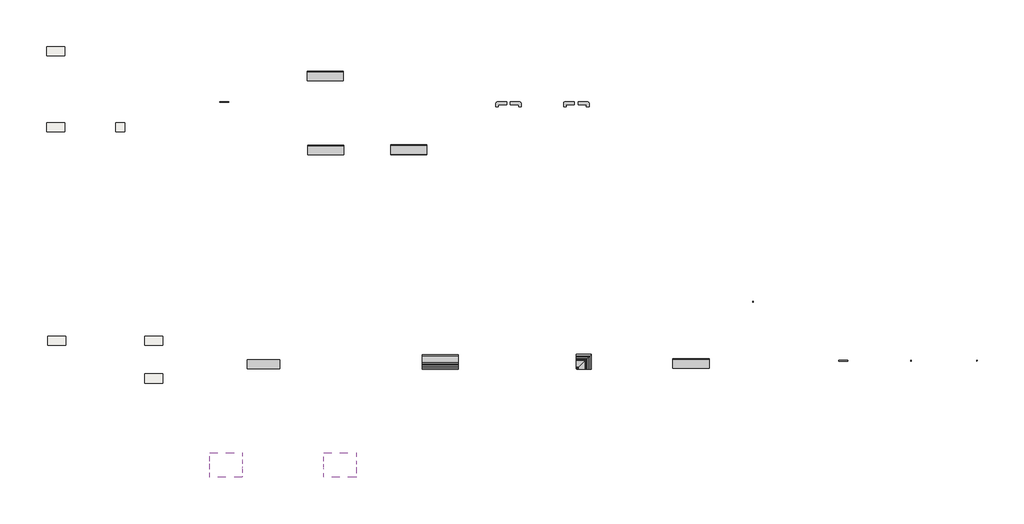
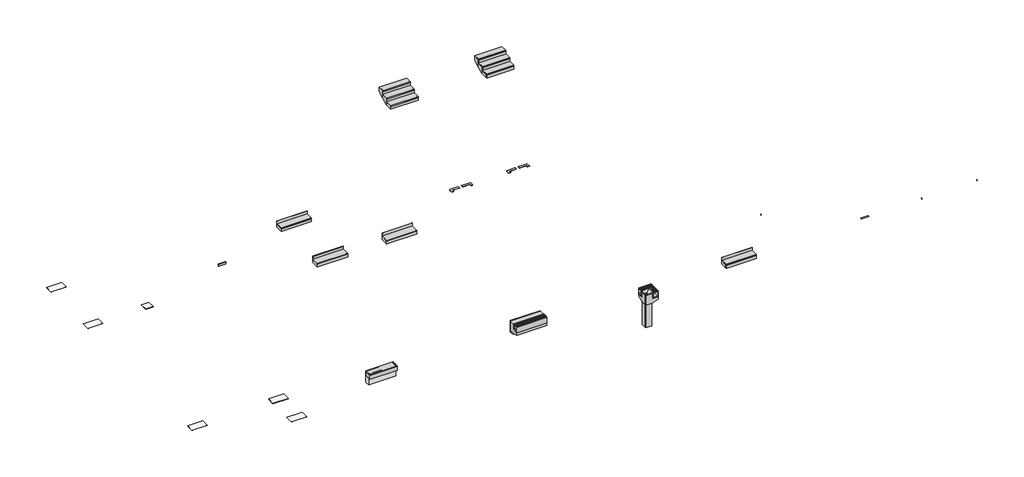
# One storey, incomplete: 15 proxies, 6 slabs, 6 stair flights, 3 walls.
"""IFC4 building model written with IfcOpenShell, lengths in millimetres."""

from ifc_helpers import new_model, si_unit, point, frame, frame_2d, origin, place, context, project, spatial, polyline, circle_curve, trimmed, segment, composite_curve, outline, extrude, faceted_brep, transform, mapped, element, save
from components import generic_models_5bab8272, generic_models_c79c0e69, generic_models_6290b49e, generic_models_9a913470, roca_polar_33x3cm_504bcb03, roca_polar_3x3cm_d871d5da, roca_polar_4x4cm_b0f7cce5, roca_polar_corner_33x33cm_grating_24_5x33cm_6b5bcf94

model = new_model("IFC4")

# Units and contexts
model_context = context("Model", 3, world=origin())
ifc_project = project(units=[si_unit("LENGTHUNIT", "METRE", prefix="MILLI")], contexts=[model_context])

# Site, building, storey
site = spatial("IfcSite", under=ifc_project)
building = spatial("IfcBuilding", under=site)
storey = spatial("IfcBuildingStorey", under=building, Name="EXAGRES_ROCA POLAR Series_Catalogue", Elevation=18000.0)

# Proxies
placement = place(None, origin())
element("IfcBuildingElementProxy", 1, Name="Wall Sweeps", at=placement, inside=storey, context=model_context, shape_type="SweptSolid", body=[
    extrude(outline(polyline([(-10629.7277813, 18046.2592037), (-10829.7277813, 18046.2592037), (-11129.7277813, 18144.7108891), (-11129.7277813, 18250.0), (-10879.7277813, 18250.0), (-10879.7277813, 18500.0), (-10629.7277813, 18500.0), (-10629.7277813, 18046.2592037)])), frame((12587.844275, 0.0, 0.0), z_axis=(1.0, 0.0, 0.0), x_axis=(0.0, 1.0, 0.0)), (0.0, 0.0, 1.0), 1320.0),
])
element("IfcBuildingElementProxy", 2, Name="Wall Sweeps", at=placement, inside=storey, context=model_context, shape_type="SweptSolid", body=[
    extrude(outline(polyline([(-10909.7277813, 18300.0), (-10909.7277813, 18500.0), (-10879.7277813, 18500.0), (-10879.7277813, 18250.0), (-11129.7277813, 18250.0), (-11129.7277813, 18500.0), (-11099.7277813, 18500.0), (-11099.7277813, 18300.0), (-10909.7277813, 18300.0)])), frame((12587.844275, 0.0, 0.0), z_axis=(1.0, 0.0, 0.0), x_axis=(0.0, 1.0, 0.0)), (0.0, 0.0, 1.0), 1320.0),
])
element("IfcBuildingElementProxy", 3, Name="Wall Sweeps", at=placement, inside=storey, context=model_context, shape_type="SweptSolid", body=[
    extrude(outline(composite_curve([segment(trimmed(circle_curve(frame_2d((-11079.7277813, 18500.0)), 15.0), [point((-11079.7277813, 18515.0))], [point((-11094.7277813, 18500.0))], True, "CARTESIAN"), True, "CONTINUOUS"), segment(polyline([(-11094.7277813, 18500.0), (-11124.7277813, 18500.0), (-11124.7277813, 18511.0), (-11102.2277813, 18511.0), (-11102.2277813, 18519.0), (-11120.7277813, 18519.0), (-11120.7277813, 18530.0), (-11081.2277813, 18530.0), (-11081.2277813, 18525.0), (-11073.2277813, 18525.0), (-11073.2277813, 18530.0), (-11033.7277813, 18530.0), (-11034.7277813, 18519.0), (-11039.7277813, 18519.0), (-11039.7277813, 18511.0), (-11019.7277813, 18511.0), (-11019.7277813, 18519.0), (-11024.7277813, 18519.0), (-11025.7277813, 18530.0), (-10986.2277813, 18530.0), (-10986.2277813, 18525.0), (-10978.2277813, 18525.0), (-10978.2277813, 18530.0), (-10938.7277813, 18530.0), (-10939.7277813, 18519.0), (-10944.7277813, 18519.0), (-10944.7277813, 18511.0), (-10924.7277813, 18511.0), (-10924.7277813, 18519.0), (-10929.7277813, 18519.0), (-10930.7277813, 18530.0), (-10891.2277813, 18530.0), (-10884.7277813, 18515.0), (-10884.7277813, 18500.0), (-10896.7277813, 18500.0), (-10896.7277813, 18511.0)]), True, "CONTINUOUS"), segment(trimmed(circle_curve(frame_2d((-10900.4777813, 18511.0)), 3.75), [point((-10896.7277813, 18511.0))], [point((-10904.2277813, 18511.0))], True, "CARTESIAN"), True, "CONTINUOUS"), segment(polyline([(-10904.2277813, 18511.0), (-10904.2277813, 18500.0), (-10964.7277813, 18500.0)]), True, "CONTINUOUS"), segment(trimmed(circle_curve(frame_2d((-10979.7277813, 18500.0)), 15.0), [point((-10964.7277813, 18500.0))], [point((-10979.7277813, 18515.0))], True, "CARTESIAN"), True, "CONTINUOUS"), segment(polyline([(-10979.7277813, 18515.0), (-10984.7277813, 18515.0)]), True, "CONTINUOUS"), segment(trimmed(circle_curve(frame_2d((-10984.7277813, 18500.0)), 15.0), [point((-10984.7277813, 18515.0))], [point((-10999.7277813, 18500.0))], True, "CARTESIAN"), True, "CONTINUOUS"), segment(polyline([(-10999.7277813, 18500.0), (-11059.7277813, 18500.0)]), True, "CONTINUOUS"), segment(trimmed(circle_curve(frame_2d((-11074.7277813, 18500.0)), 15.0), [point((-11059.7277813, 18500.0))], [point((-11074.7277813, 18515.0))], True, "CARTESIAN"), True, "CONTINUOUS"), segment(polyline([(-11074.7277813, 18515.0), (-11079.7277813, 18515.0)]), True, "CONTINUOUS")], self_intersect=False)), frame((12587.844275, 0.0, 0.0), z_axis=(1.0, 0.0, 0.0), x_axis=(0.0, 1.0, 0.0)), (0.0, 0.0, 1.0), 1320.0),
])
element("IfcBuildingElementProxy", 4, Name="Wall Sweeps", at=placement, inside=storey, context=model_context, shape_type="SweptSolid", body=[
    extrude(outline(polyline([(-10787.7277813, 18500.0), (-10787.7277813, 18508.0), (-10786.7277813, 18508.0), (-10786.7277813, 18514.0), (-10787.7277813, 18514.0), (-10787.7277813, 18521.0), (-10794.7277813, 18521.0), (-10794.7277813, 18522.0), (-10798.7277813, 18522.0), (-10798.7277813, 18521.0), (-10804.7277813, 18521.0), (-10804.7277813, 18522.0), (-10808.7277813, 18522.0), (-10808.7277813, 18521.0), (-10814.7277813, 18521.0), (-10814.7277813, 18522.0), (-10818.7277813, 18522.0), (-10818.7277813, 18521.0), (-10824.7277813, 18521.0), (-10824.7277813, 18522.0), (-10828.7277813, 18522.0), (-10828.7277813, 18521.0), (-10834.7277813, 18521.0), (-10834.7277813, 18522.0), (-10838.7277813, 18522.0), (-10838.7277813, 18521.0), (-10844.7277813, 18521.0), (-10844.7277813, 18522.0), (-10848.7277813, 18522.0), (-10848.7277813, 18521.0), (-10854.7277813, 18521.0), (-10854.7277813, 18522.0), (-10858.7277813, 18522.0), (-10858.7277813, 18521.0), (-10864.7277813, 18521.0), (-10864.7277813, 18522.0), (-10868.7277813, 18522.0), (-10868.7277813, 18521.0), (-10874.7277813, 18521.0), (-10874.7277813, 18522.0), (-10878.7277813, 18522.0), (-10878.7277813, 18521.0), (-10884.7277813, 18521.0), (-10884.7277813, 18522.0), (-10888.7277813, 18522.0), (-10888.7277813, 18521.0), (-10894.7277813, 18521.0), (-10894.7277813, 18522.0), (-10898.7277813, 18522.0), (-10898.7277813, 18521.0), (-10904.7277813, 18521.0), (-10904.7277813, 18522.0), (-10908.7277813, 18522.0), (-10908.7277813, 18521.0), (-10914.7277813, 18521.0), (-10914.7277813, 18522.0), (-10918.7277813, 18522.0), (-10918.7277813, 18521.0), (-10924.7277813, 18521.0), (-10924.7277813, 18522.0), (-10928.7277813, 18522.0), (-10928.7277813, 18521.0), (-10934.7277813, 18521.0), (-10934.7277813, 18522.0), (-10938.7277813, 18522.0), (-10938.7277813, 18521.0), (-10944.7277813, 18521.0), (-10944.7277813, 18522.0), (-10948.7277813, 18522.0), (-10948.7277813, 18521.0), (-10954.7277813, 18521.0), (-10954.7277813, 18522.0), (-10958.7277813, 18522.0), (-10958.7277813, 18521.0), (-10964.7277813, 18521.0), (-10964.7277813, 18522.0), (-10968.7277813, 18522.0), (-10968.7277813, 18521.0), (-10974.7277813, 18521.0), (-10974.7277813, 18522.0), (-10978.7277813, 18522.0), (-10978.7277813, 18521.0), (-10984.7277813, 18521.0), (-10984.7277813, 18522.0), (-10988.7277813, 18522.0), (-10988.7277813, 18521.0), (-10994.7277813, 18521.0), (-10994.7277813, 18522.0), (-10998.7277813, 18522.0), (-10998.7277813, 18521.0), (-11004.7277813, 18521.0), (-11004.7277813, 18522.0), (-11008.7277813, 18522.0), (-11008.7277813, 18521.0), (-11014.7277813, 18521.0), (-11014.7277813, 18522.0), (-11018.7277813, 18522.0), (-11018.7277813, 18521.0), (-11024.7277813, 18521.0), (-11024.7277813, 18522.0), (-11028.7277813, 18522.0), (-11028.7277813, 18521.0), (-11034.7277813, 18521.0), (-11034.7277813, 18522.0), (-11038.7277813, 18522.0), (-11038.7277813, 18521.0), (-11044.7277813, 18521.0), (-11044.7277813, 18522.0), (-11048.7277813, 18522.0), (-11048.7277813, 18521.0), (-11054.7277813, 18521.0), (-11054.7277813, 18522.0), (-11058.7277813, 18522.0), (-11058.7277813, 18521.0), (-11064.7277813, 18521.0), (-11064.7277813, 18522.0), (-11068.7277813, 18522.0), (-11068.7277813, 18521.0), (-11074.7277813, 18521.0), (-11074.7277813, 18522.0), (-11078.7277813, 18522.0), (-11078.7277813, 18521.0), (-11084.7277813, 18521.0), (-11084.7277813, 18522.0), (-11088.7277813, 18522.0), (-11088.7277813, 18521.0), (-11094.7277813, 18521.0), (-11094.7277813, 18522.0), (-11098.7277813, 18522.0), (-11098.7277813, 18521.0), (-11104.7277813, 18521.0), (-11104.7277813, 18533.0), (-10774.7277813, 18533.0), (-10774.7277813, 18500.0), (-10787.7277813, 18500.0)])), frame((6130.0707994, 0.0, 0.0), z_axis=(1.0, 0.0, 0.0), x_axis=(0.0, 1.0, 0.0)), (0.0, 0.0, 1.0), 1202.0),
])
element("IfcBuildingElementProxy", 5, Name="Wall Sweeps", at=placement, inside=storey, context=model_context, shape_type="Brep", body=[
    faceted_brep([(6130.0707994, -11094.7277813, 18318.74), (6130.0707994, -11094.7277813, 18518.74), (6130.0707994, -10789.7277813, 18518.74), (6130.0707994, -10789.7277813, 18500.0), (6130.0707994, -10789.7277813, 18318.74), (6130.0707994, -10999.7277813, 18318.74), (7332.0707994, -11094.7277813, 18318.74), (7332.0707994, -10999.7277813, 18318.74), (7332.0707994, -10789.7277813, 18318.74), (7332.0707994, -10789.7277813, 18500.0), (7332.0707994, -10789.7277813, 18518.74), (7332.0707994, -11094.7277813, 18518.74)], [[[0, 1, 2, 3, 4, 5]], [[6, 7, 8, 9, 10, 11]], [[0, 5, 4, 8, 7, 6]], [[4, 3, 2, 10, 9, 8]], [[2, 1, 11, 10]], [[1, 0, 6, 11]]]),
])
element("IfcBuildingElementProxy", 6, Name="Exagres_Roca_Polar_Skirting_9x33", ObjectType="Exagres_Roca_Polar_Skirting_9x33", at=placement, inside=storey, context=model_context, shape_type="SweptSolid", body=[
    extrude(outline(polyline([(-1272.7444733, 18090.0), (-1272.7444733, 18000.0), (-1287.7444733, 18000.0), (-1287.7444733, 18085.0), (-1282.7444733, 18090.0), (-1272.7444733, 18090.0)])), frame((5117.2337887, 0.0, 0.0), z_axis=(1.0, 0.0, 0.0), x_axis=(0.0, 1.0, 0.0)), (0.0, 0.0, 1.0), 330.0),
])
generic_models_shape = generic_models_5bab8272(model_context)
element("IfcBuildingElementProxy", 7, Name="EXAGRES - Step Skirting Straight 42.3x17.5 : Exagres_Roca_Polar_Left", ObjectType="EXAGRES - Step Skirting Straight 42.3x17.5 : Exagres_Roca_Polar_Left", at=placement, inside=storey, context=model_context, shape_type="MappedRepresentation", body=[
    mapped(generic_models_shape, transform((15392.0707994, -1375.5173558, 18000.0), x_axis=(1.0, 0.0, 0.0), y_axis=(0.0, 1.0, 0.0), z_axis=(0.0, 0.0, 1.0))),
])
generic_models_2_shape = generic_models_c79c0e69(model_context)
element("IfcBuildingElementProxy", 8, Name="EXAGRES - Step Skirting ML 39.5x17.5 : Exagres_Roca_Polar_Left", ObjectType="EXAGRES - Step Skirting ML 39.5x17.5 : Exagres_Roca_Polar_Left", at=placement, inside=storey, context=model_context, shape_type="MappedRepresentation", body=[
    mapped(generic_models_2_shape, transform((17892.0707994, -1375.5173558, 18000.0), x_axis=(1.0, 0.0, 0.0), y_axis=(0.0, 1.0, 0.0), z_axis=(0.0, 0.0, 1.0))),
])
generic_models_3_shape = generic_models_6290b49e(model_context)
element("IfcBuildingElementProxy", 9, Name="EXAGRES - Step Skirting Straight 42.3x17.5 : Exagres_Roca_Polar_Right", ObjectType="EXAGRES - Step Skirting Straight 42.3x17.5 : Exagres_Roca_Polar_Right", at=placement, inside=storey, context=model_context, shape_type="MappedRepresentation", body=[
    mapped(generic_models_3_shape, transform((16132.0707994, -1375.5173558, 18000.0), x_axis=(-1.0, 0.0, 0.0), y_axis=(0.0, -1.0, 0.0), z_axis=(0.0, 0.0, 1.0))),
])
generic_models_4_shape = generic_models_9a913470(model_context)
element("IfcBuildingElementProxy", 10, Name="EXAGRES - Step Skirting ML 39.5x17.5 : Exagres_Roca_Polar_Right", ObjectType="EXAGRES - Step Skirting ML 39.5x17.5 : Exagres_Roca_Polar_Right", at=placement, inside=storey, context=model_context, shape_type="MappedRepresentation", body=[
    mapped(generic_models_4_shape, transform((18632.0707994, -1375.5173558, 18000.0), x_axis=(-1.0, 0.0, 0.0), y_axis=(0.0, -1.0, 0.0), z_axis=(0.0, 0.0, 1.0))),
])
roca_polar_33x3cm_shape = roca_polar_33x3cm_504bcb03(model_context)
element("IfcBuildingElementProxy", 11, Name="EXAGRES - Half Round Edge : Roca_Polar_33x3cm", ObjectType="EXAGRES - Half Round Edge : Roca_Polar_33x3cm", at=placement, inside=storey, context=model_context, shape_type="MappedRepresentation", body=[
    mapped(roca_polar_33x3cm_shape, transform((27929.1243906, -10824.0598396, 18030.0), x_axis=(1.0, 0.0, 0.0), y_axis=(0.0, 1.0, 0.0), z_axis=(0.0, 0.0, 1.0))),
])
roca_polar_3x3cm_shape = roca_polar_3x3cm_d871d5da(model_context)
element("IfcBuildingElementProxy", 12, Name="EXAGRES - Round Corner : Roca_Polar_3x3cm", ObjectType="EXAGRES - Round Corner : Roca_Polar_3x3cm", at=placement, inside=storey, context=model_context, shape_type="MappedRepresentation", body=[
    mapped(roca_polar_3x3cm_shape, transform((24787.844275, -8649.7277813, 18000.0), x_axis=(1.0, 0.0, 0.0), y_axis=(0.0, 1.0, 0.0), z_axis=(0.0, 0.0, 1.0))),
])
element("IfcBuildingElementProxy", 13, Name="EXAGRES - Round Corner : Roca_Polar_3x3cm", ObjectType="EXAGRES - Round Corner : Roca_Polar_3x3cm", at=placement, inside=storey, context=model_context, shape_type="MappedRepresentation", body=[
    mapped(roca_polar_3x3cm_shape, transform((33046.4584066, -10821.3496882, 18030.0), x_axis=(1.0, 0.0, 0.0), y_axis=(0.0, 1.0, 0.0), z_axis=(0.0, 0.0, 1.0))),
])
roca_polar_4x4cm_shape = roca_polar_4x4cm_b0f7cce5(model_context)
element("IfcBuildingElementProxy", 14, Name="EXAGRES - Coving Corner : Roca_Polar_4x4cm", ObjectType="EXAGRES - Coving Corner : Roca_Polar_4x4cm", at=placement, inside=storey, context=model_context, shape_type="MappedRepresentation", body=[
    mapped(roca_polar_4x4cm_shape, transform((30587.844275, -10799.7277813, 18000.0), x_axis=(1.0, 0.0, 0.0), y_axis=(0.0, 1.0, 0.0), z_axis=(0.0, 0.0, 1.0))),
])
roca_polar_corner_33x33cm_grating_24_5x33cm_shape = roca_polar_corner_33x33cm_grating_24_5x33cm_6b5bcf94(model_context)
element("IfcBuildingElementProxy", 15, Name="EXAGRES - Overflow Interior Corner : Roca_Polar_Corner_33x33cm _Grating_24.5x33cm", ObjectType="EXAGRES - Overflow Interior Corner : Roca_Polar_Corner_33x33cm _Grating_24.5x33cm", at=placement, inside=storey, context=model_context, shape_type="MappedRepresentation", body=[
    mapped(roca_polar_corner_33x33cm_grating_24_5x33cm_shape, transform((18287.844275, -11099.7277813, 18000.0), x_axis=(1.0, 0.0, 0.0), y_axis=(0.0, 1.0, 0.0), z_axis=(0.0, 0.0, 1.0))),
])

# Slabs
element("IfcSlab", 16, ObjectType="Exagres_Roca_Polar_Base_33x66,5_R9", at=placement, inside=storey, context=model_context, shape_type="SweptSolid", body=[
    extrude(outline(polyline([(-594.4525763, 768.0707543), (-594.4525763, 436.0707543), (-1261.4525763, 436.0707543), (-1261.4525763, 768.0707543), (-594.4525763, 768.0707543)])), frame((0.0, 0.0, 17990.0), z_axis=(0.0, 0.0, 1.0), x_axis=(1.0, 0.0, 0.0)), (0.0, 0.0, 1.0), 10.0),
])
element("IfcSlab", 17, ObjectType="Exagres_Roca_Polar_Base_33x66,5_R12+C", at=placement, inside=storey, context=model_context, shape_type="SweptSolid", body=[
    extrude(outline(polyline([(-592.4525763, -2031.9292457), (-592.4525763, -2365.9292457), (-1261.4525763, -2365.9292457), (-1261.4525763, -2031.9292457), (-592.4525763, -2031.9292457)])), frame((0.0, 0.0, 17990.0), z_axis=(0.0, 0.0, 1.0), x_axis=(1.0, 0.0, 0.0)), (0.0, 0.0, 1.0), 10.0),
])
element("IfcSlab", 18, ObjectType="Exagres_Roca_Polar_Base_33x33_R12+C", at=placement, inside=storey, context=model_context, shape_type="SweptSolid", body=[
    extrude(outline(polyline([(1622.5474237, -2031.9292457), (1622.5474237, -2365.9292457), (1288.5474237, -2365.9292457), (1288.5474237, -2031.9292457), (1622.5474237, -2031.9292457)])), frame((0.0, 0.0, 17990.0), z_axis=(0.0, 0.0, 1.0), x_axis=(1.0, 0.0, 0.0)), (0.0, 0.0, 1.0), 10.0),
])
element("IfcSlab", 19, ObjectType="Exagres_Roca_Polar_Pool_33x66,5_R9", at=placement, inside=storey, context=model_context, shape_type="SweptSolid", body=[
    extrude(outline(polyline([(-545.155725, -9899.7277813), (-545.155725, -10231.7277813), (-1212.155725, -10231.7277813), (-1212.155725, -9899.7277813), (-545.155725, -9899.7277813)])), frame((0.0, 0.0, 17990.0), z_axis=(0.0, 0.0, 1.0), x_axis=(1.0, 0.0, 0.0)), (0.0, 0.0, 1.0), 10.0),
])
element("IfcSlab", 20, ObjectType="Exagres_Roca_Polar_Pool_33x66,5_R12+C", at=placement, inside=storey, context=model_context, shape_type="SweptSolid", body=[
    extrude(outline(polyline([(3028.596948, -11299.7277813), (3028.596948, -11633.7277813), (2359.596948, -11633.7277813), (2359.596948, -11299.7277813), (3028.596948, -11299.7277813)])), frame((0.0, 0.0, 17990.0), z_axis=(0.0, 0.0, 1.0), x_axis=(1.0, 0.0, 0.0)), (0.0, 0.0, 1.0), 10.0),
])
element("IfcSlab", 21, ObjectType="Exagres_Roca_Polar_Pool_33x66,5_R9", at=placement, inside=storey, context=model_context, shape_type="SweptSolid", body=[
    extrude(outline(polyline([(3026.596948, -9899.7277813), (3026.596948, -10231.7277813), (2359.596948, -10231.7277813), (2359.596948, -9899.7277813), (3026.596948, -9899.7277813)])), frame((0.0, 0.0, 17990.0), z_axis=(0.0, 0.0, 1.0), x_axis=(1.0, 0.0, 0.0)), (0.0, 0.0, 1.0), 10.0),
])

# Stair flights
element("IfcStairFlight", 22, ObjectType="EXAGRES_ML - Roca Polar R11+C", at=placement, inside=storey, context=model_context, shape_type="SolidModel", body=[
    faceted_brep([(4748.0970953, -14777.6587674, 33972.3684211), (4748.0970953, -15077.6587674, 33972.3684211), (5948.0970953, -15077.6587674, 33972.3684211), (5948.0970953, -14777.6587674, 33972.3684211), (4748.0970953, -14777.6587674, 33820.0), (4748.0970953, -15077.6587674, 33820.0), (5948.0970953, -15077.6587674, 33820.0), (5948.0970953, -14777.6587674, 33820.0), (4748.0970953, -14477.6587674, 34139.7368421), (4748.0970953, -14777.6587674, 34139.7368421), (5948.0970953, -14777.6587674, 34139.7368421), (5948.0970953, -14477.6587674, 34139.7368421), (4748.0970953, -14477.6587674, 33956.5213642), (4748.0970953, -14722.3668729, 33820.0), (5948.0970953, -14722.3668729, 33820.0), (5948.0970953, -14477.6587674, 33956.5213642), (4748.0970953, -14211.6587674, 34104.9213642), (5948.0970953, -14211.6587674, 34104.9213642), (4748.0970953, -14211.6587674, 34307.1052632), (4748.0970953, -14477.6587674, 34307.1052632), (5948.0970953, -14477.6587674, 34307.1052632), (5948.0970953, -14211.6587674, 34307.1052632)], [[[0, 1, 2, 3]], [[1, 0, 4, 5]], [[2, 1, 5, 6]], [[3, 2, 6, 7]], [[8, 9, 10, 11]], [[4, 0, 9, 8, 12, 13]], [[0, 3, 10, 9]], [[3, 7, 14, 15, 11, 10]], [[5, 4, 13, 14, 7, 6]], [[14, 13, 12, 16, 17, 15]], [[18, 19, 20, 21]], [[19, 18, 16, 12, 8]], [[8, 11, 20, 19]], [[21, 20, 11, 15, 17]], [[18, 21, 17, 16]]]),
    extrude(outline(composite_curve([segment(polyline([(-15091.6587674, 33987.3684211), (-14777.6587674, 33987.3684211), (-14777.6587674, 33972.3684211), (-15063.7492185, 33972.3684211), (-15063.7492185, 33971.8684211), (-15067.6587674, 33971.8684211), (-15067.6587674, 33972.3684211), (-15069.2492185, 33972.3684211), (-15069.2492185, 33972.8684211), (-15071.6587674, 33972.8684211), (-15071.6587674, 33971.8684211), (-15078.6587674, 33971.8684211), (-15078.6587674, 33964.8684211), (-15079.6587674, 33964.8684211), (-15079.6587674, 33958.8684211), (-15078.6587674, 33958.8684211), (-15078.6587674, 33947.3684211), (-15091.6587674, 33947.3684211)]), True, "CONTINUOUS"), segment(trimmed(circle_curve(frame_2d((-15091.6587674, 33967.3684211)), 20.0), [point((-15091.6587674, 33947.3684211))], [point((-15091.6587674, 33987.3684211))], False, "CARTESIAN"), True, "CONTINUOUS")], self_intersect=False)), frame((4748.0970953, 0.0, 0.0), z_axis=(1.0, 0.0, 0.0), x_axis=(0.0, 1.0, 0.0)), (0.0, 0.0, 1.0), 1200.0),
    extrude(outline(polyline([(5948.0970953, -15077.6587674), (5948.0970953, -15087.6587674), (4748.0970953, -15087.6587674), (4748.0970953, -15077.6587674), (5948.0970953, -15077.6587674)])), frame((0.0, 0.0, 33820.0), z_axis=(0.0, 0.0, 1.0), x_axis=(1.0, 0.0, 0.0)), (0.0, 0.0, 1.0), 127.3684211),
    extrude(outline(polyline([(5948.0970953, -14777.6587674), (5948.0970953, -14787.6587674), (4748.0970953, -14787.6587674), (4748.0970953, -14777.6587674), (5948.0970953, -14777.6587674)])), frame((0.0, 0.0, 33987.3684211), z_axis=(0.0, 0.0, 1.0), x_axis=(1.0, 0.0, 0.0)), (0.0, 0.0, 1.0), 127.3684211),
    extrude(outline(composite_curve([segment(polyline([(-14791.6587674, 34154.7368421), (-14477.6587674, 34154.7368421), (-14477.6587674, 34139.7368421), (-14763.7492185, 34139.7368421), (-14763.7492185, 34139.2368421), (-14767.6587674, 34139.2368421), (-14767.6587674, 34139.7368421), (-14769.2492185, 34139.7368421), (-14769.2492185, 34140.2368421), (-14771.6587674, 34140.2368421), (-14771.6587674, 34139.2368421), (-14778.6587674, 34139.2368421), (-14778.6587674, 34132.2368421), (-14779.6587674, 34132.2368421), (-14779.6587674, 34126.2368421), (-14778.6587674, 34126.2368421), (-14778.6587674, 34114.7368421), (-14791.6587674, 34114.7368421)]), True, "CONTINUOUS"), segment(trimmed(circle_curve(frame_2d((-14791.6587674, 34134.7368421)), 20.0), [point((-14791.6587674, 34114.7368421))], [point((-14791.6587674, 34154.7368421))], False, "CARTESIAN"), True, "CONTINUOUS")], self_intersect=False)), frame((4748.0970953, 0.0, 0.0), z_axis=(1.0, 0.0, 0.0), x_axis=(0.0, 1.0, 0.0)), (0.0, 0.0, 1.0), 1200.0),
    extrude(outline(polyline([(5948.0970953, -14477.6587674), (5948.0970953, -14487.6587674), (4748.0970953, -14487.6587674), (4748.0970953, -14477.6587674), (5948.0970953, -14477.6587674)])), frame((0.0, 0.0, 34154.7368421), z_axis=(0.0, 0.0, 1.0), x_axis=(1.0, 0.0, 0.0)), (0.0, 0.0, 1.0), 127.3684211),
    extrude(outline(composite_curve([segment(polyline([(-14491.6587674, 34322.1052632), (-14211.6587674, 34322.1052632), (-14211.6587674, 34307.1052632), (-14463.7492185, 34307.1052632), (-14463.7492185, 34306.6052632), (-14467.6587674, 34306.6052632), (-14467.6587674, 34307.1052632), (-14469.2492185, 34307.1052632), (-14469.2492185, 34307.6052632), (-14471.6587674, 34307.6052632), (-14471.6587674, 34306.6052632), (-14478.6587674, 34306.6052632), (-14478.6587674, 34299.6052632), (-14479.6587674, 34299.6052632), (-14479.6587674, 34293.6052632), (-14478.6587674, 34293.6052632), (-14478.6587674, 34282.1052632), (-14491.6587674, 34282.1052632)]), True, "CONTINUOUS"), segment(trimmed(circle_curve(frame_2d((-14491.6587674, 34302.1052632)), 20.0), [point((-14491.6587674, 34282.1052632))], [point((-14491.6587674, 34322.1052632))], False, "CARTESIAN"), True, "CONTINUOUS")], self_intersect=False)), frame((4748.0970953, 0.0, 0.0), z_axis=(1.0, 0.0, 0.0), x_axis=(0.0, 1.0, 0.0)), (0.0, 0.0, 1.0), 1200.0),
])
element("IfcStairFlight", 23, ObjectType="EXAGRES_Straight_33x33 - Roca Polar R11+C", at=placement, inside=storey, context=model_context, shape_type="SweptSolid", body=[
    extrude(outline(polyline([(8362.6218417, -3205.5667634), (8362.6218417, -2875.5667634), (9692.6218417, -2875.5667634), (9692.6218417, -3205.5667634), (8362.6218417, -3205.5667634)])), frame((0.0, 0.0, 18000.0), z_axis=(0.0, 0.0, 1.0), x_axis=(1.0, 0.0, 0.0)), (0.0, 0.0, 1.0), 151.6666667),
    extrude(outline(polyline([(-2875.5667634, 18151.6666667), (-3200.6572145, 18151.6666667), (-3200.6572145, 18154.6666667), (-3205.5667634, 18154.6666667), (-3205.5667634, 18147.6666667), (-3206.5667634, 18147.6666667), (-3206.5667634, 18141.6666667), (-3205.5667634, 18141.6666667), (-3205.5667634, 18133.6666667), (-3218.5667634, 18133.6666667), (-3218.5667634, 18166.6666667), (-2875.5667634, 18166.6666667), (-2875.5667634, 18151.6666667)])), frame((8362.6218417, 0.0, 0.0), z_axis=(1.0, 0.0, 0.0), x_axis=(0.0, 1.0, 0.0)), (0.0, 0.0, 1.0), 1330.0),
    extrude(outline(polyline([(9692.6218417, -3205.5667634), (9692.6218417, -3218.5667634), (8362.6218417, -3218.5667634), (8362.6218417, -3205.5667634), (9692.6218417, -3205.5667634)])), frame((0.0, 0.0, 18000.0), z_axis=(0.0, 0.0, 1.0), x_axis=(1.0, 0.0, 0.0)), (0.0, 0.0, 1.0), 133.6666667),
    extrude(outline(polyline([(9692.6218417, -2875.5667634), (9692.6218417, -2888.5667634), (8362.6218417, -2888.5667634), (8362.6218417, -2875.5667634), (9692.6218417, -2875.5667634)])), frame((0.0, 0.0, 18166.6666667), z_axis=(0.0, 0.0, 1.0), x_axis=(1.0, 0.0, 0.0)), (0.0, 0.0, 1.0), 133.6666667),
])
element("IfcStairFlight", 24, ObjectType="EXAGRES_Straight_33x33 - Roca Polar R9", at=placement, inside=storey, context=model_context, shape_type="SweptSolid", body=[
    extrude(outline(polyline([(8347.9503057, -478.1306727), (8347.9503057, -148.1306727), (9677.9503057, -148.1306727), (9677.9503057, -478.1306727), (8347.9503057, -478.1306727)])), frame((0.0, 0.0, 18000.0), z_axis=(0.0, 0.0, 1.0), x_axis=(1.0, 0.0, 0.0)), (0.0, 0.0, 1.0), 151.6666667),
    extrude(outline(polyline([(-148.1306727, 18151.6666667), (-473.2211238, 18151.6666667), (-473.2211238, 18154.6666667), (-478.1306727, 18154.6666667), (-478.1306727, 18147.6666667), (-479.1306727, 18147.6666667), (-479.1306727, 18141.6666667), (-478.1306727, 18141.6666667), (-478.1306727, 18133.6666667), (-491.1306727, 18133.6666667), (-491.1306727, 18166.6666667), (-148.1306727, 18166.6666667), (-148.1306727, 18151.6666667)])), frame((8347.9503057, 0.0, 0.0), z_axis=(1.0, 0.0, 0.0), x_axis=(0.0, 1.0, 0.0)), (0.0, 0.0, 1.0), 1330.0),
    extrude(outline(polyline([(9677.9503057, -478.1306727), (9677.9503057, -491.1306727), (8347.9503057, -491.1306727), (8347.9503057, -478.1306727), (9677.9503057, -478.1306727)])), frame((0.0, 0.0, 18000.0), z_axis=(0.0, 0.0, 1.0), x_axis=(1.0, 0.0, 0.0)), (0.0, 0.0, 1.0), 133.6666667),
    extrude(outline(polyline([(9677.9503057, -148.1306727), (9677.9503057, -161.1306727), (8347.9503057, -161.1306727), (8347.9503057, -148.1306727), (9677.9503057, -148.1306727)])), frame((0.0, 0.0, 18166.6666667), z_axis=(0.0, 0.0, 1.0), x_axis=(1.0, 0.0, 0.0)), (0.0, 0.0, 1.0), 133.6666667),
])
element("IfcStairFlight", 25, ObjectType="EXAGRES_ML - Roca Polar R11+C", at=placement, inside=storey, context=model_context, shape_type="SweptSolid", body=[
    extrude(outline(polyline([(11421.7915516, -3184.5667634), (11421.7915516, -2854.5667634), (12751.7915516, -2854.5667634), (12751.7915516, -3184.5667634), (11421.7915516, -3184.5667634)])), frame((0.0, 0.0, 18000.0), z_axis=(0.0, 0.0, 1.0), x_axis=(1.0, 0.0, 0.0)), (0.0, 0.0, 1.0), 151.6666667),
    extrude(outline(composite_curve([segment(polyline([(-3198.5667634, 18166.6666667), (-2854.5667634, 18166.6666667), (-2854.5667634, 18151.6666667), (-3170.6572145, 18151.6666667), (-3170.6572145, 18151.1666667), (-3174.5667634, 18151.1666667), (-3174.5667634, 18151.6666667), (-3176.1572145, 18151.6666667), (-3176.1572145, 18152.1666667), (-3178.5667634, 18152.1666667), (-3178.5667634, 18151.1666667), (-3185.5667634, 18151.1666667), (-3185.5667634, 18144.1666667), (-3186.5667634, 18144.1666667), (-3186.5667634, 18138.1666667), (-3185.5667634, 18138.1666667), (-3185.5667634, 18126.6666667), (-3198.5667634, 18126.6666667)]), True, "CONTINUOUS"), segment(trimmed(circle_curve(frame_2d((-3198.5667634, 18146.6666667)), 20.0), [point((-3198.5667634, 18126.6666667))], [point((-3198.5667634, 18166.6666667))], False, "CARTESIAN"), True, "CONTINUOUS")], self_intersect=False)), frame((11421.7915516, 0.0, 0.0), z_axis=(1.0, 0.0, 0.0), x_axis=(0.0, 1.0, 0.0)), (0.0, 0.0, 1.0), 1330.0),
    extrude(outline(polyline([(12751.7915516, -3184.5667634), (12751.7915516, -3194.5667634), (11421.7915516, -3194.5667634), (11421.7915516, -3184.5667634), (12751.7915516, -3184.5667634)])), frame((0.0, 0.0, 18000.0), z_axis=(0.0, 0.0, 1.0), x_axis=(1.0, 0.0, 0.0)), (0.0, 0.0, 1.0), 126.6666667),
    extrude(outline(polyline([(12751.7915516, -2854.5667634), (12751.7915516, -2864.5667634), (11421.7915516, -2864.5667634), (11421.7915516, -2854.5667634), (12751.7915516, -2854.5667634)])), frame((0.0, 0.0, 18166.6666667), z_axis=(0.0, 0.0, 1.0), x_axis=(1.0, 0.0, 0.0)), (0.0, 0.0, 1.0), 126.6666667),
])
element("IfcStairFlight", 26, ObjectType="EXAGRES_Straight_33x33 - Roca Polar R11+C", at=placement, inside=storey, context=model_context, shape_type="SweptSolid", body=[
    extrude(outline(polyline([(21825.925566, -11073.4612995), (21825.925566, -10743.4612995), (23155.925566, -10743.4612995), (23155.925566, -11073.4612995), (21825.925566, -11073.4612995)])), frame((0.0, 0.0, 18000.0), z_axis=(0.0, 0.0, 1.0), x_axis=(1.0, 0.0, 0.0)), (0.0, 0.0, 1.0), 154.4915254),
    extrude(outline(polyline([(-10743.4612995, 18154.4915254), (-11068.5517506, 18154.4915254), (-11068.5517506, 18157.4915254), (-11073.4612995, 18157.4915254), (-11073.4612995, 18150.4915254), (-11074.4612995, 18150.4915254), (-11074.4612995, 18144.4915254), (-11073.4612995, 18144.4915254), (-11073.4612995, 18136.4915254), (-11086.4612995, 18136.4915254), (-11086.4612995, 18169.4915254), (-10743.4612995, 18169.4915254), (-10743.4612995, 18154.4915254)])), frame((21825.925566, 0.0, 0.0), z_axis=(1.0, 0.0, 0.0), x_axis=(0.0, 1.0, 0.0)), (0.0, 0.0, 1.0), 1330.0),
    extrude(outline(polyline([(23155.925566, -11073.4612995), (23155.925566, -11086.4612995), (21825.925566, -11086.4612995), (21825.925566, -11073.4612995), (23155.925566, -11073.4612995)])), frame((0.0, 0.0, 18000.0), z_axis=(0.0, 0.0, 1.0), x_axis=(1.0, 0.0, 0.0)), (0.0, 0.0, 1.0), 136.4915254),
    extrude(outline(polyline([(23155.925566, -10743.4612995), (23155.925566, -10756.4612995), (21825.925566, -10756.4612995), (21825.925566, -10743.4612995), (23155.925566, -10743.4612995)])), frame((0.0, 0.0, 18169.4915254), z_axis=(0.0, 0.0, 1.0), x_axis=(1.0, 0.0, 0.0)), (0.0, 0.0, 1.0), 136.4915254),
])
element("IfcStairFlight", 27, ObjectType="EXAGRES_Straight_33x33 - Roca Polar R9", at=placement, inside=storey, context=model_context, shape_type="SolidModel", body=[
    faceted_brep([(8948.0970953, -14798.6587674, 33972.3684211), (8948.0970953, -15098.6587674, 33972.3684211), (10148.0970953, -15098.6587674, 33972.3684211), (10148.0970953, -14798.6587674, 33972.3684211), (8948.0970953, -14798.6587674, 33820.0), (8948.0970953, -15098.6587674, 33820.0), (10148.0970953, -15098.6587674, 33820.0), (10148.0970953, -14798.6587674, 33820.0), (8948.0970953, -14498.6587674, 34139.7368421), (8948.0970953, -14798.6587674, 34139.7368421), (10148.0970953, -14798.6587674, 34139.7368421), (10148.0970953, -14498.6587674, 34139.7368421), (8948.0970953, -14498.6587674, 33956.5213642), (8948.0970953, -14743.3668729, 33820.0), (10148.0970953, -14743.3668729, 33820.0), (10148.0970953, -14498.6587674, 33956.5213642), (8948.0970953, -14211.6587674, 34116.6371536), (10148.0970953, -14211.6587674, 34116.6371536), (8948.0970953, -14211.6587674, 34307.1052632), (8948.0970953, -14498.6587674, 34307.1052632), (10148.0970953, -14498.6587674, 34307.1052632), (10148.0970953, -14211.6587674, 34307.1052632)], [[[0, 1, 2, 3]], [[1, 0, 4, 5]], [[2, 1, 5, 6]], [[3, 2, 6, 7]], [[8, 9, 10, 11]], [[4, 0, 9, 8, 12, 13]], [[0, 3, 10, 9]], [[3, 7, 14, 15, 11, 10]], [[5, 4, 13, 14, 7, 6]], [[14, 13, 12, 16, 17, 15]], [[18, 19, 20, 21]], [[19, 18, 16, 12, 8]], [[8, 11, 20, 19]], [[21, 20, 11, 15, 17]], [[18, 21, 17, 16]]]),
    extrude(outline(polyline([(-14798.6587674, 33972.3684211), (-15093.7492185, 33972.3684211), (-15093.7492185, 33975.3684211), (-15098.6587674, 33975.3684211), (-15098.6587674, 33968.3684211), (-15099.6587674, 33968.3684211), (-15099.6587674, 33962.3684211), (-15098.6587674, 33962.3684211), (-15098.6587674, 33954.3684211), (-15111.6587674, 33954.3684211), (-15111.6587674, 33987.3684211), (-14798.6587674, 33987.3684211), (-14798.6587674, 33972.3684211)])), frame((8948.0970953, 0.0, 0.0), z_axis=(1.0, 0.0, 0.0), x_axis=(0.0, 1.0, 0.0)), (0.0, 0.0, 1.0), 1200.0),
    extrude(outline(polyline([(10148.0970953, -15098.6587674), (10148.0970953, -15111.6587674), (8948.0970953, -15111.6587674), (8948.0970953, -15098.6587674), (10148.0970953, -15098.6587674)])), frame((0.0, 0.0, 33820.0), z_axis=(0.0, 0.0, 1.0), x_axis=(1.0, 0.0, 0.0)), (0.0, 0.0, 1.0), 134.3684211),
    extrude(outline(polyline([(10148.0970953, -14798.6587674), (10148.0970953, -14811.6587674), (8948.0970953, -14811.6587674), (8948.0970953, -14798.6587674), (10148.0970953, -14798.6587674)])), frame((0.0, 0.0, 33987.3684211), z_axis=(0.0, 0.0, 1.0), x_axis=(1.0, 0.0, 0.0)), (0.0, 0.0, 1.0), 134.3684211),
    extrude(outline(polyline([(-14498.6587674, 34139.7368421), (-14793.7492185, 34139.7368421), (-14793.7492185, 34142.7368421), (-14798.6587674, 34142.7368421), (-14798.6587674, 34135.7368421), (-14799.6587674, 34135.7368421), (-14799.6587674, 34129.7368421), (-14798.6587674, 34129.7368421), (-14798.6587674, 34121.7368421), (-14811.6587674, 34121.7368421), (-14811.6587674, 34154.7368421), (-14498.6587674, 34154.7368421), (-14498.6587674, 34139.7368421)])), frame((8948.0970953, 0.0, 0.0), z_axis=(1.0, 0.0, 0.0), x_axis=(0.0, 1.0, 0.0)), (0.0, 0.0, 1.0), 1200.0),
    extrude(outline(polyline([(10148.0970953, -14498.6587674), (10148.0970953, -14511.6587674), (8948.0970953, -14511.6587674), (8948.0970953, -14498.6587674), (10148.0970953, -14498.6587674)])), frame((0.0, 0.0, 34154.7368421), z_axis=(0.0, 0.0, 1.0), x_axis=(1.0, 0.0, 0.0)), (0.0, 0.0, 1.0), 134.3684211),
    extrude(outline(polyline([(-14211.6587674, 34307.1052632), (-14493.7492185, 34307.1052632), (-14493.7492185, 34310.1052632), (-14498.6587674, 34310.1052632), (-14498.6587674, 34303.1052632), (-14499.6587674, 34303.1052632), (-14499.6587674, 34297.1052632), (-14498.6587674, 34297.1052632), (-14498.6587674, 34289.1052632), (-14511.6587674, 34289.1052632), (-14511.6587674, 34322.1052632), (-14211.6587674, 34322.1052632), (-14211.6587674, 34307.1052632)])), frame((8948.0970953, 0.0, 0.0), z_axis=(1.0, 0.0, 0.0), x_axis=(0.0, 1.0, 0.0)), (0.0, 0.0, 1.0), 1200.0),
])

# Walls
element("IfcWall", 28, ObjectType="Exagres_Overflow pool - Edge 28x66.5 - Grating 24.5x24.5 - Roca Polar", at=placement, inside=storey, context=model_context, shape_type="Brep", body=[
    faceted_brep([(12587.844275, -10829.7277813, 18000.0), (13907.844275, -10829.7277813, 18000.0), (13907.844275, -10829.7277813, 18046.2592037), (12587.844275, -10829.7277813, 18046.2592037), (13907.844275, -10599.7277813, 18500.0), (13907.844275, -10599.7277813, 18000.0), (12587.844275, -10599.7277813, 18000.0), (12587.844275, -10599.7277813, 18500.0), (13907.844275, -10609.9156667, 18500.0), (13907.844275, -10621.4185256, 18500.0), (13907.844275, -10626.2282977, 18500.0), (13907.844275, -10629.7277813, 18500.0), (13907.844275, -10629.7277813, 18046.2592037), (13907.844275, -10629.7277813, 18000.0), (12587.844275, -10629.7277813, 18000.0), (12587.844275, -10629.7277813, 18046.2592037), (12587.844275, -10629.7277813, 18500.0), (12587.844275, -10626.2282977, 18500.0), (12587.844275, -10621.4185256, 18500.0), (12587.844275, -10609.9156667, 18500.0)], [[[0, 1, 2, 3]], [[4, 5, 6, 7]], [[5, 4, 8, 9, 10, 11, 12, 2, 1, 13]], [[7, 6, 14, 0, 3, 15, 16, 17, 18, 19]], [[12, 15, 3, 2]], [[15, 12, 11, 16]], [[4, 7, 19, 18, 17, 16, 11, 10, 9, 8]], [[1, 0, 14, 13]], [[14, 6, 5, 13]]]),
])
element("IfcWall", 29, ObjectType="Exagres_Skimmer pool - Straight Step 33x33 - Roca Polar", at=placement, inside=storey, context=model_context, shape_type="Brep", body=[
    faceted_brep([(6130.0707994, -10999.7277813, 18000.0), (7332.0707994, -10999.7277813, 18000.0), (7332.0707994, -10999.7277813, 18318.74), (6130.0707994, -10999.7277813, 18318.74), (7332.0707994, -10774.7277813, 18000.0), (6130.0707994, -10774.7277813, 18000.0), (6130.0707994, -10774.7277813, 18500.0), (7332.0707994, -10774.7277813, 18500.0), (7332.0707994, -10787.7277813, 18500.0), (7332.0707994, -10789.7277813, 18500.0), (7332.0707994, -10789.7277813, 18318.74), (6130.0707994, -10787.7277813, 18500.0), (6130.0707994, -10789.7277813, 18500.0), (6130.0707994, -10789.7277813, 18318.74)], [[[0, 1, 2, 3]], [[4, 5, 6, 7]], [[1, 0, 5, 4]], [[4, 7, 8, 9, 10, 2, 1]], [[7, 6, 11, 12, 9, 8]], [[6, 5, 0, 3, 13, 12, 11]], [[10, 13, 3, 2]], [[13, 10, 9, 12]]]),
])
element("IfcWall", 30, ObjectType="Muro básico:muro", at=placement, inside=storey, context=model_context, shape_type="SweptSolid", body=[
    extrude(outline(polyline([(5447.2337887, -1272.7444733), (5117.2337887, -1272.7444733), (5117.2337887, -1271.7444733), (5447.2337887, -1271.7444733), (5447.2337887, -1272.7444733)])), frame((0.0, 0.0, 18000.0), z_axis=(0.0, 0.0, 1.0), x_axis=(1.0, 0.0, 0.0)), (0.0, 0.0, 1.0), 75.0),
])

save(model, "model.ifc")
